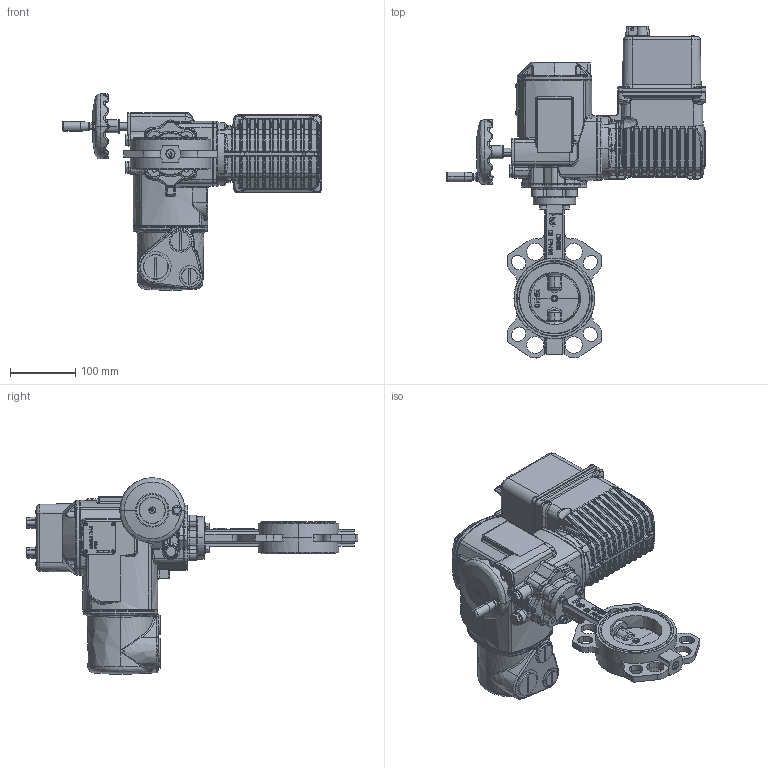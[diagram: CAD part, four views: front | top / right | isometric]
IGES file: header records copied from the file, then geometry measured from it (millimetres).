
Start section: SolidWorks IGES file using NURBS representation for surfaces
Global section: file name: H:\BE BIBLIOTHEQUE 3D\Projet_Biblio3D_2016\FSK\VPI\VPI-U04\VPI-U04 DN80.Igs; native system: SolidWorks 2014; preprocessor: SolidWorks 2014; author: a.cartier; date: 160929.180543; units: millimetre
Bounding box: 398.75 x 510.09 x 301.71 mm (x, y, z)
Volume: 7435740.1 mm3; surface area: 616591.7 mm2
Topology: 46 solids, 48 shells, 4338 faces, 10640 edges, 6267 vertices
Faces by surface type: bspline 4338
